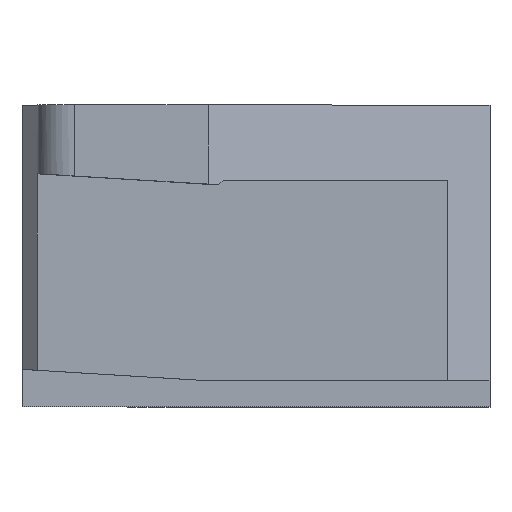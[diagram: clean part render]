
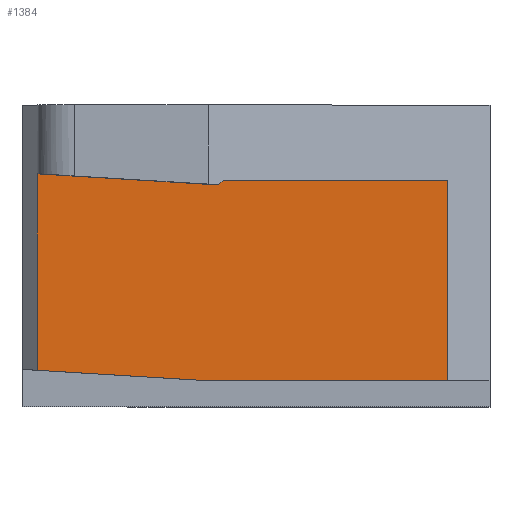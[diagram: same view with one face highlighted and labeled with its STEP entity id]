
A CAD part, top view. The second image highlights one B-rep face of the part: STEP entity #1384.
In plain terms, the highlighted planar face has unit normal (0, 0, 1).
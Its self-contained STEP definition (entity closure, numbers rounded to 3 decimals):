
#2 = VECTOR ( 'NONE', #464, 1000. ) ;
#9 = EDGE_CURVE ( 'NONE', #229, #117, #397, .T. ) ;
#40 = AXIS2_PLACEMENT_3D ( 'NONE', #1040, #823, #481 ) ;
#66 = VERTEX_POINT ( 'NONE', #995 ) ;
#103 = DIRECTION ( 'NONE',  ( -0.707, -0.707, 0. ) ) ;
#105 = CARTESIAN_POINT ( 'NONE',  ( 11.749, 0., 10.836 ) ) ;
#117 = VERTEX_POINT ( 'NONE', #1241 ) ;
#135 = VERTEX_POINT ( 'NONE', #159 ) ;
#159 = CARTESIAN_POINT ( 'NONE',  ( -3.438, -3.297, 10.836 ) ) ;
#229 = VERTEX_POINT ( 'NONE', #1029 ) ;
#234 = EDGE_LOOP ( 'NONE', ( #427, #746, #598, #876, #956, #349, #1258 ) ) ;
#305 = CARTESIAN_POINT ( 'NONE',  ( -15.481, -2.56, 10.836 ) ) ;
#329 = VERTEX_POINT ( 'NONE', #563 ) ;
#332 = EDGE_CURVE ( 'NONE', #573, #1289, #649, .T. ) ;
#349 = ORIENTED_EDGE ( 'NONE', *, *, #332, .T. ) ;
#397 = LINE ( 'NONE', #1079, #1178 ) ;
#400 = CARTESIAN_POINT ( 'NONE',  ( -4.141, -16.278, 10.836 ) ) ;
#424 = EDGE_CURVE ( 'NONE', #117, #135, #1343, .T. ) ;
#427 = ORIENTED_EDGE ( 'NONE', *, *, #1088, .F. ) ;
#438 = EDGE_CURVE ( 'NONE', #135, #66, #1449, .T. ) ;
#464 = DIRECTION ( 'NONE',  ( 0.998, -0.061, 0. ) ) ;
#481 = DIRECTION ( 'NONE',  ( 1., 0., 0. ) ) ;
#563 = CARTESIAN_POINT ( 'NONE',  ( 11.749, -16.278, 10.836 ) ) ;
#565 = PLANE ( 'NONE',  #40 ) ;
#573 = VERTEX_POINT ( 'NONE', #865 ) ;
#598 = ORIENTED_EDGE ( 'NONE', *, *, #424, .T. ) ;
#612 = VECTOR ( 'NONE', #1409, 1000. ) ;
#649 = LINE ( 'NONE', #810, #2 ) ;
#716 = CARTESIAN_POINT ( 'NONE',  ( -0.07, 0.07, 10.836 ) ) ;
#746 = ORIENTED_EDGE ( 'NONE', *, *, #9, .T. ) ;
#776 = LINE ( 'NONE', #105, #1043 ) ;
#810 = CARTESIAN_POINT ( 'NONE',  ( -15.481, -15.585, 10.836 ) ) ;
#823 = DIRECTION ( 'NONE',  ( 0., 0., 1. ) ) ;
#858 = EDGE_CURVE ( 'NONE', #66, #573, #1523, .T. ) ;
#863 = FACE_OUTER_BOUND ( 'NONE', #234, .T. ) ;
#865 = CARTESIAN_POINT ( 'NONE',  ( -15.481, -15.585, 10.836 ) ) ;
#876 = ORIENTED_EDGE ( 'NONE', *, *, #438, .T. ) ;
#903 = VECTOR ( 'NONE', #1250, 1000. ) ;
#956 = ORIENTED_EDGE ( 'NONE', *, *, #858, .T. ) ;
#995 = CARTESIAN_POINT ( 'NONE',  ( -15.481, -2.56, 10.836 ) ) ;
#1006 = EDGE_CURVE ( 'NONE', #1289, #329, #1359, .T. ) ;
#1029 = CARTESIAN_POINT ( 'NONE',  ( 11.749, -3., 10.836 ) ) ;
#1040 = CARTESIAN_POINT ( 'NONE',  ( 0., 0., 10.836 ) ) ;
#1043 = VECTOR ( 'NONE', #1196, 1000. ) ;
#1079 = CARTESIAN_POINT ( 'NONE',  ( -4.141, -3., 10.836 ) ) ;
#1088 = EDGE_CURVE ( 'NONE', #229, #329, #776, .T. ) ;
#1102 = VECTOR ( 'NONE', #103, 1000. ) ;
#1127 = CARTESIAN_POINT ( 'NONE',  ( -4.141, -16.278, 10.836 ) ) ;
#1169 = VECTOR ( 'NONE', #1455, 1000. ) ;
#1177 = CARTESIAN_POINT ( 'NONE',  ( -15.481, -2.56, 10.836 ) ) ;
#1178 = VECTOR ( 'NONE', #1336, 1000. ) ;
#1196 = DIRECTION ( 'NONE',  ( 0., -1., 0. ) ) ;
#1241 = CARTESIAN_POINT ( 'NONE',  ( -3.141, -3., 10.836 ) ) ;
#1250 = DIRECTION ( 'NONE',  ( 1., 0., 0. ) ) ;
#1258 = ORIENTED_EDGE ( 'NONE', *, *, #1006, .T. ) ;
#1289 = VERTEX_POINT ( 'NONE', #1127 ) ;
#1336 = DIRECTION ( 'NONE',  ( -1., 0., 0. ) ) ;
#1343 = LINE ( 'NONE', #716, #1102 ) ;
#1359 = LINE ( 'NONE', #400, #903 ) ;
#1384 = ADVANCED_FACE ( 'NONE', ( #863 ), #565, .T. ) ;
#1409 = DIRECTION ( 'NONE',  ( -0.998, 0.061, 0. ) ) ;
#1449 = LINE ( 'NONE', #1177, #612 ) ;
#1455 = DIRECTION ( 'NONE',  ( 0., -1., 0. ) ) ;
#1523 = LINE ( 'NONE', #305, #1169 ) ;
